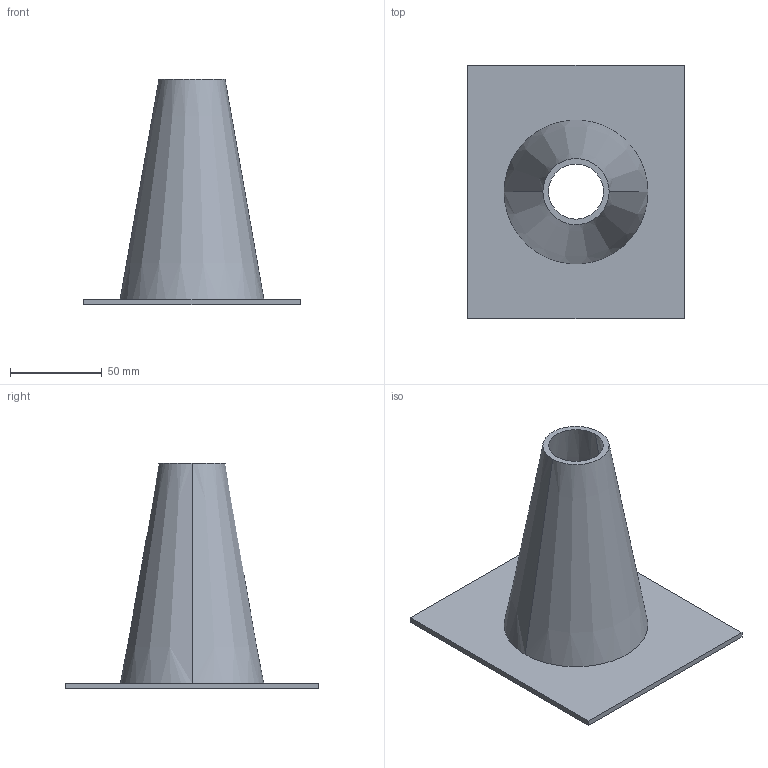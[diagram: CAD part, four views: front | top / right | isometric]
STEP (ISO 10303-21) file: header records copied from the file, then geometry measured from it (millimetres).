
FILE_DESCRIPTION(('CATIA V5 STEP Exchange'),'2;1');
FILE_NAME('C:\_Andres\UNIVERSIDAD\IQS\ASIGNATURAS\DAO\EXF\EXF-15161c\1original\Vila_Vaquer_Ej08-ensambla_v28.stp','2016-03-04T21:37:20+00:00',('none'),('none'),'CATIA Version 5 Release 20 SP 1 (IN-10)','CATIA V5 STEP AP203','none');
FILE_SCHEMA(('CONFIG_CONTROL_DESIGN'));
Length unit declared in the file: millimetre
Products named in the file (1): Vila_Vaquer_Ej08-ensambla_v28
Bounding box: 118 x 138 x 123 mm (x, y, z)
Volume: 98598.5 mm3; surface area: 67560.4 mm2
Topology: 1 solids, 1 shells, 11 faces, 24 edges, 16 vertices
Faces by surface type: plane 7, cone 4
Entity records: 414 total; most frequent: CARTESIAN_POINT 127, ORIENTED_EDGE 48, DIRECTION 44, EDGE_CURVE 24, AXIS2_PLACEMENT_3D 17, VECTOR 16, LINE 16, VERTEX_POINT 16
